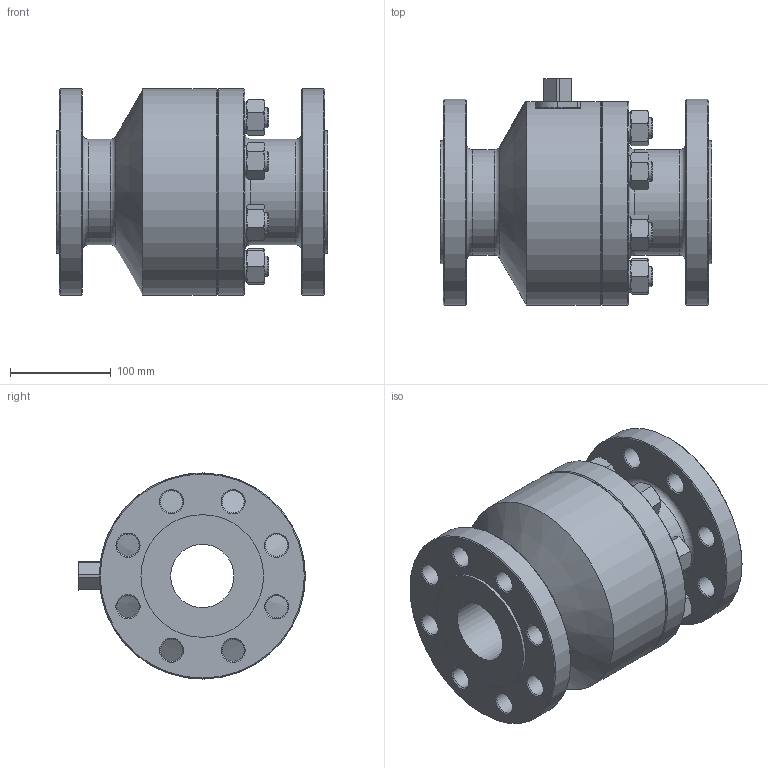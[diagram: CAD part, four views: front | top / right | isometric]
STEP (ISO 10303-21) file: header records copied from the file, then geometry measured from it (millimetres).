
FILE_DESCRIPTION((''),'2;1');
FILE_NAME('C:\Users\Bartek\Desktop\Nowy folder (2)\Nowy folder (22)\WK5b\WK5b DN65 PN63_Substitute_1.stp','2024-09-17T09:23:00',('Bartek'),(''),'Autodesk Inventor 2012','Autodesk Inventor 2012','');
FILE_SCHEMA(('AUTOMOTIVE_DESIGN { 1 0 10303 214 1 1 1 1 }'));
Length unit declared in the file: millimetre
Products named in the file (1): WK5b DN65 PN63_Substitute_1
Bounding box: 270 x 225.5 x 205 mm (x, y, z)
Volume: 5416899.9 mm3; surface area: 412987.9 mm2
Topology: 1 solids, 1 shells, 300 faces, 683 edges, 415 vertices
Faces by surface type: cone 144, plane 98, cylinder 54, torus 4
Full cylindrical faces by diameter (mm): 20 x8, 22 x16, 31 x8, 63 x1, 105 x2, 122 x2, 130 x1, 205 x2
Entity records: 7885 total; most frequent: CARTESIAN_POINT 1658, DIRECTION 1231, ORIENTED_EDGE 1138, EDGE_CURVE 569, AXIS2_PLACEMENT_3D 560, EDGE_LOOP 457, VERTEX_POINT 390, STYLED_ITEM 301
